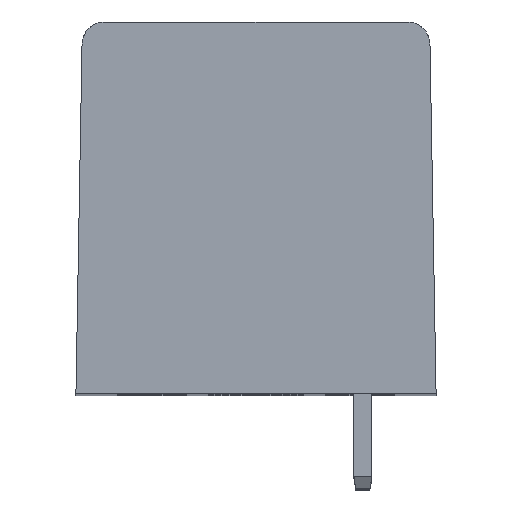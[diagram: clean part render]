
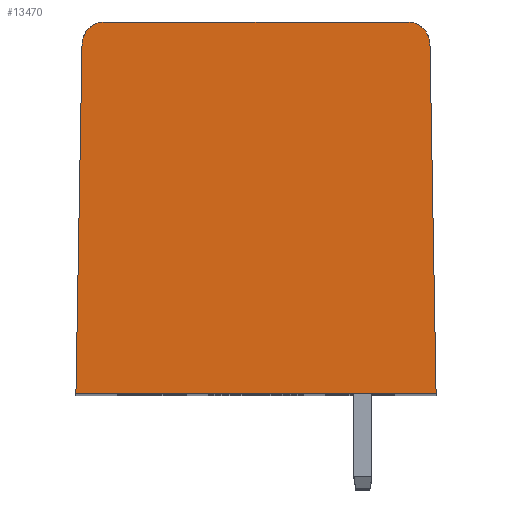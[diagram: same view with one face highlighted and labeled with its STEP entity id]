
A CAD part, top view. The second image highlights one B-rep face of the part: STEP entity #13470.
In plain terms, the highlighted planar face has unit normal (0, 0, 1).
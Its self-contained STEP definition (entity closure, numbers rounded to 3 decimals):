
#823 = CARTESIAN_POINT ( 'NONE',  ( 6.729, 16.5, 0. ) ) ;
#824 = DIRECTION ( 'NONE',  ( 1., 0., 0. ) ) ;
#825 = VECTOR ( 'NONE', #824, 1000. ) ;
#826 = CARTESIAN_POINT ( 'NONE',  ( 0., 16.5, 0. ) ) ;
#827 = LINE ( 'NONE', #826, #825 ) ;
#828 = CARTESIAN_POINT ( 'NONE',  ( -6.729, 16.5, 0. ) ) ;
#908 = DIRECTION ( 'NONE',  ( -1., 0., 0. ) ) ;
#909 = DIRECTION ( 'NONE',  ( 0., 0., -1. ) ) ;
#910 = CARTESIAN_POINT ( 'NONE',  ( -6.729, 15.5, 0. ) ) ;
#911 = AXIS2_PLACEMENT_3D ( 'NONE', #910, #909, #908 ) ;
#912 = CIRCLE ( 'NONE', #911, 1. ) ;
#913 = CARTESIAN_POINT ( 'NONE',  ( -7.729, 15.517, 0. ) ) ;
#1255 = CARTESIAN_POINT ( 'NONE',  ( 7.729, 15.517, 0. ) ) ;
#1256 = DIRECTION ( 'NONE',  ( -1., 0., 0. ) ) ;
#1257 = DIRECTION ( 'NONE',  ( 0., 0., -1. ) ) ;
#1258 = AXIS2_PLACEMENT_3D ( 'NONE', #1264, #1257, #1256 ) ;
#1259 = CIRCLE ( 'NONE', #1258, 1. ) ;
#1264 = CARTESIAN_POINT ( 'NONE',  ( 6.729, 15.5, 0. ) ) ;
#1766 = DIRECTION ( 'NONE',  ( 0.017, 1., 0. ) ) ;
#1767 = VECTOR ( 'NONE', #1766, 1000. ) ;
#1768 = CARTESIAN_POINT ( 'NONE',  ( -8., 0., 0. ) ) ;
#1769 = LINE ( 'NONE', #1768, #1767 ) ;
#1770 = DIRECTION ( 'NONE',  ( 1., 0., 0. ) ) ;
#1771 = VECTOR ( 'NONE', #1770, 1000. ) ;
#1772 = CARTESIAN_POINT ( 'NONE',  ( 0., 0., 0. ) ) ;
#1773 = LINE ( 'NONE', #1772, #1771 ) ;
#1774 = DIRECTION ( 'NONE',  ( -1., 0., 0. ) ) ;
#1775 = DIRECTION ( 'NONE',  ( 0., 0., -1. ) ) ;
#1776 = CARTESIAN_POINT ( 'NONE',  ( 8.096, 0., 0. ) ) ;
#1777 = AXIS2_PLACEMENT_3D ( 'NONE', #1776, #1775, #1774 ) ;
#1778 = PLANE ( 'NONE',  #1777 ) ;
#1779 = FACE_OUTER_BOUND ( 'NONE', #13471, .T. ) ;
#1810 = CARTESIAN_POINT ( 'NONE',  ( -8., 0., 0. ) ) ;
#1843 = DIRECTION ( 'NONE',  ( 0.017, -1., 0. ) ) ;
#1844 = VECTOR ( 'NONE', #1843, 1000. ) ;
#1845 = CARTESIAN_POINT ( 'NONE',  ( 7.865, 7.759, 0. ) ) ;
#1846 = LINE ( 'NONE', #1845, #1844 ) ;
#1847 = CARTESIAN_POINT ( 'NONE',  ( 8., 0., 0. ) ) ;
#12758 = VERTEX_POINT ( 'NONE', #828 ) ;
#12760 = EDGE_CURVE ( 'NONE', #12758, #12761, #827, .T. ) ;
#12761 = VERTEX_POINT ( 'NONE', #823 ) ;
#12826 = VERTEX_POINT ( 'NONE', #913 ) ;
#12828 = EDGE_CURVE ( 'NONE', #12826, #12758, #912, .T. ) ;
#13097 = EDGE_CURVE ( 'NONE', #12761, #13098, #1259, .T. ) ;
#13098 = VERTEX_POINT ( 'NONE', #1255 ) ;
#13470 = ADVANCED_FACE ( 'NONE', ( #1779 ), #1778, .F. ) ;
#13471 = EDGE_LOOP ( 'NONE', ( #13473, #13474, #13544, #13546, #13547, #13548 ) ) ;
#13473 = ORIENTED_EDGE ( 'NONE', *, *, #13486, .F. ) ;
#13474 = ORIENTED_EDGE ( 'NONE', *, *, #13475, .T. ) ;
#13475 = EDGE_CURVE ( 'NONE', #13508, #13543, #1773, .T. ) ;
#13486 = EDGE_CURVE ( 'NONE', #13508, #12826, #1769, .T. ) ;
#13508 = VERTEX_POINT ( 'NONE', #1810 ) ;
#13543 = VERTEX_POINT ( 'NONE', #1847 ) ;
#13544 = ORIENTED_EDGE ( 'NONE', *, *, #13545, .F. ) ;
#13545 = EDGE_CURVE ( 'NONE', #13098, #13543, #1846, .T. ) ;
#13546 = ORIENTED_EDGE ( 'NONE', *, *, #13097, .F. ) ;
#13547 = ORIENTED_EDGE ( 'NONE', *, *, #12760, .F. ) ;
#13548 = ORIENTED_EDGE ( 'NONE', *, *, #12828, .F. ) ;
